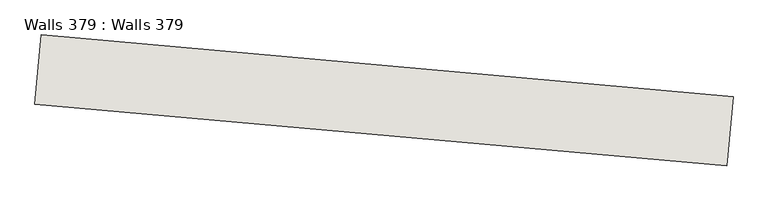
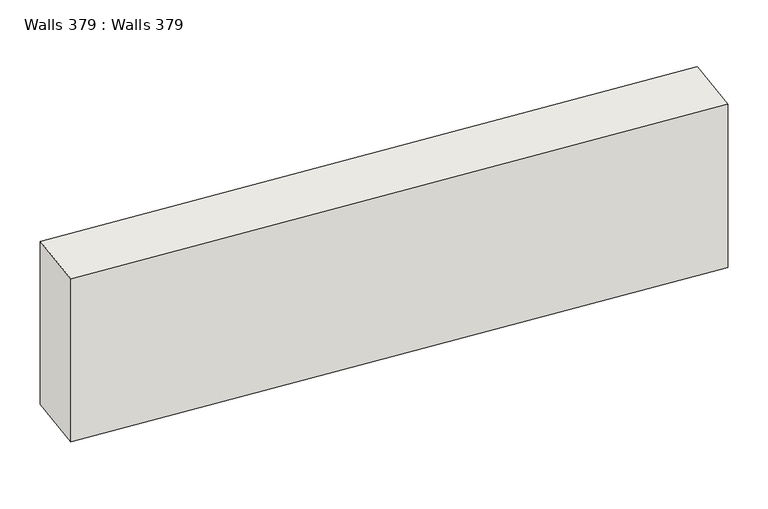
"""IFC4 building model written with IfcOpenShell, lengths in millimetres: wall geometry, Walls 379 : Walls 379."""

from ifc_helpers import new_model, si_unit, frame, origin, place, context, project, spatial, polyline, outline, extrude, source, transform, mapped, element, save


def walls_379_walls_379_7c03a475(model_context):
    return source(origin(), model_context, "Body", "SweptSolid", [
        extrude(outline(polyline([(-638775.6523704, -421771.1797057), (-638811.1473005, -422169.6017306), (-642795.3675496, -421814.65243), (-642759.8726195, -421416.2304051), (-638775.6523704, -421771.1797057)])), frame((0.0, 0.0, 635860.0), z_axis=(0.0, 0.0, 1.0), x_axis=(1.0, 0.0, 0.0)), (0.0, 0.0, 1.0), 1100.0),
    ])


if __name__ == "__main__":
    model = new_model("IFC4")
    model_context = context("Model", 3, world=origin())
    ifc_project = project(units=[si_unit("LENGTHUNIT", "METRE", prefix="MILLI")], contexts=[model_context])
    site = spatial("IfcSite", under=ifc_project)
    building = spatial("IfcBuilding", under=site)
    placement = place(None, origin())
    walls_379_walls_379_shape = walls_379_walls_379_7c03a475(model_context)
    element("IfcWall", 1, ObjectType="Walls 379 : Walls 379", at=placement, inside=building, context=model_context, shape_type="MappedRepresentation", body=[
        mapped(walls_379_walls_379_shape, transform((0.0, 0.0, 0.0), x_axis=(1.0, 0.0, 0.0), y_axis=(0.0, 1.0, 0.0), z_axis=(0.0, 0.0, 1.0))),
    ])
    save(model, "model.ifc")
